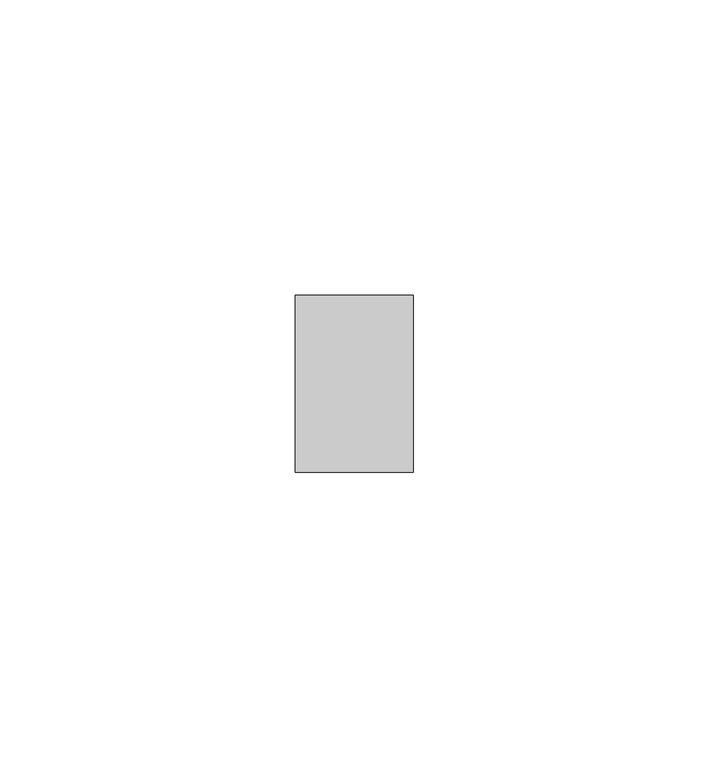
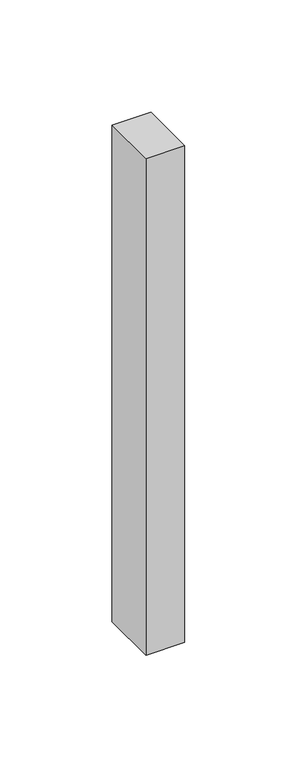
"""IFC4 building model written with IfcOpenShell, lengths in millimetres: member geometry, Прямоугольный импост : Квадрат 10 мм - Зазор между навесными плитами."""

from ifc_helpers import new_model, si_unit, frame, origin, place, context, project, spatial, polyline, outline, extrude, source, transform, mapped, element, save


def member_0b4b1cb5(model_context):
    return source(origin(), model_context, "Body", "SweptSolid", [
        extrude(outline(polyline([(10.0, 15.0), (10.0, -15.0), (-10.0, -15.0), (-10.0, 15.0), (10.0, 15.0)])), frame((0.0, 0.0, -270.0), z_axis=(0.0, 0.0, 1.0), x_axis=(1.0, 0.0, 0.0)), (0.0, 0.0, 1.0), 270.0),
    ])


if __name__ == "__main__":
    model = new_model("IFC4")
    model_context = context("Model", 3, world=origin())
    ifc_project = project(units=[si_unit("LENGTHUNIT", "METRE", prefix="MILLI")], contexts=[model_context])
    site = spatial("IfcSite", under=ifc_project)
    building = spatial("IfcBuilding", under=site)
    placement = place(None, origin())
    member_shape = member_0b4b1cb5(model_context)
    element("IfcMember", 1, ObjectType="Прямоугольный импост : Квадрат 10 мм - Зазор между навесными плитами", at=placement, inside=building, context=model_context, shape_type="MappedRepresentation", body=[
        mapped(member_shape, transform((0.0, 0.0, 0.0), x_axis=(1.0, 0.0, 0.0), y_axis=(0.0, 1.0, 0.0), z_axis=(0.0, 0.0, 1.0))),
    ])
    save(model, "model.ifc")
